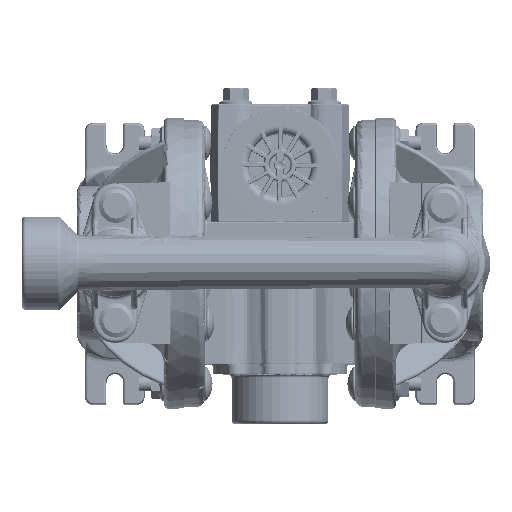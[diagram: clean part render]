
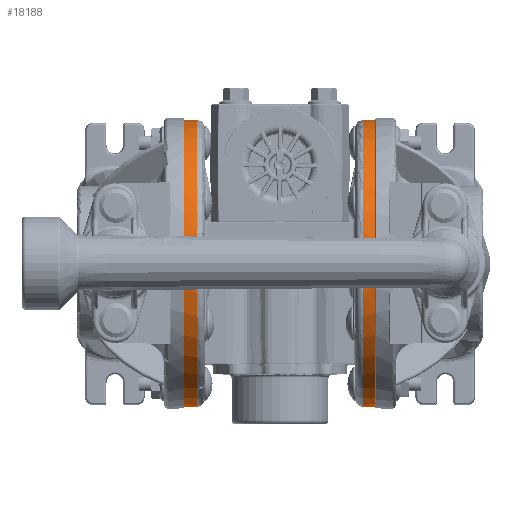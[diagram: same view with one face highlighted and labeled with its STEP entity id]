
A CAD part, top view. The second image highlights one B-rep face of the part: STEP entity #18188.
In plain terms, the highlighted cylindrical face has radius 61.913 mm (diameter 123.825 mm), a full revolution.
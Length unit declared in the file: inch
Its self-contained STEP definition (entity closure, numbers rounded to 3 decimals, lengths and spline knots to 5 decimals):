
#8941=B_SPLINE_CURVE_WITH_KNOTS('',3,(#281102,#281103,#281104,#281105),.UNSPECIFIED.,
.F.,.F.,(4,4),(0.,1.),.UNSPECIFIED.);
#8942=B_SPLINE_CURVE_WITH_KNOTS('',3,(#281126,#281127,#281128,#281129),.UNSPECIFIED.,
.F.,.F.,(4,4),(0.,1.),.UNSPECIFIED.);
#8943=B_SPLINE_CURVE_WITH_KNOTS('',3,(#281144,#281145,#281146,#281147),.UNSPECIFIED.,
.F.,.F.,(4,4),(0.,1.),.UNSPECIFIED.);
#8944=B_SPLINE_CURVE_WITH_KNOTS('',3,(#281166,#281167,#281168,#281169),.UNSPECIFIED.,
.F.,.F.,(4,4),(0.,1.),.UNSPECIFIED.);
#8946=B_SPLINE_CURVE_WITH_KNOTS('',3,(#281199,#281200,#281201,#281202),.UNSPECIFIED.,
.F.,.F.,(4,4),(0.,1.),.UNSPECIFIED.);
#8947=B_SPLINE_CURVE_WITH_KNOTS('',3,(#281222,#281223,#281224,#281225),.UNSPECIFIED.,
.F.,.F.,(4,4),(0.,1.),.UNSPECIFIED.);
#8950=B_SPLINE_CURVE_WITH_KNOTS('',3,(#281274,#281275,#281276,#281277),.UNSPECIFIED.,
.F.,.F.,(4,4),(0.,1.),.UNSPECIFIED.);
#8951=B_SPLINE_CURVE_WITH_KNOTS('',3,(#281292,#281293,#281294,#281295),.UNSPECIFIED.,
.F.,.F.,(4,4),(0.,1.),.UNSPECIFIED.);
#10473=CYLINDRICAL_SURFACE('',#139110,2.4375);
#18188=ADVANCED_FACE('',(#46049,#46050,#46051,#46052),#10473,.T.);
#37373=LINE('',#281118,#45289);
#37374=LINE('',#281120,#45290);
#37375=LINE('',#281122,#45291);
#37376=LINE('',#281162,#45292);
#37377=LINE('',#281217,#45293);
#37388=LINE('',#281479,#45304);
#45289=VECTOR('',#169526,1.);
#45290=VECTOR('',#169529,1.);
#45291=VECTOR('',#169532,1.);
#45292=VECTOR('',#169543,1.);
#45293=VECTOR('',#169554,1.);
#45304=VECTOR('',#169625,1.);
#46049=FACE_BOUND('',#54200,.T.);
#46050=FACE_BOUND('',#54201,.T.);
#46051=FACE_BOUND('',#54202,.T.);
#46052=FACE_BOUND('',#54203,.T.);
#54200=EDGE_LOOP('',(#91135,#91136,#91137,#91138,#91139,#91140,#91141,#91142));
#54201=EDGE_LOOP('',(#91143,#91144,#91145,#91146,#91147,#91148,#91149,#91150,
#91151,#91152));
#54202=EDGE_LOOP('',(#91153));
#54203=EDGE_LOOP('',(#91154));
#91135=ORIENTED_EDGE('',*,*,#122138,.T.);
#91136=ORIENTED_EDGE('',*,*,#121977,.T.);
#91137=ORIENTED_EDGE('',*,*,#122008,.T.);
#91138=ORIENTED_EDGE('',*,*,#121975,.T.);
#91139=ORIENTED_EDGE('',*,*,#121972,.T.);
#91140=ORIENTED_EDGE('',*,*,#121971,.T.);
#91141=ORIENTED_EDGE('',*,*,#121968,.T.);
#91142=ORIENTED_EDGE('',*,*,#121966,.T.);
#91143=ORIENTED_EDGE('',*,*,#121964,.T.);
#91144=ORIENTED_EDGE('',*,*,#121963,.T.);
#91145=ORIENTED_EDGE('',*,*,#121961,.T.);
#91146=ORIENTED_EDGE('',*,*,#121959,.T.);
#91147=ORIENTED_EDGE('',*,*,#121958,.T.);
#91148=ORIENTED_EDGE('',*,*,#121957,.T.);
#91149=ORIENTED_EDGE('',*,*,#121955,.T.);
#91150=ORIENTED_EDGE('',*,*,#121954,.T.);
#91151=ORIENTED_EDGE('',*,*,#121953,.T.);
#91152=ORIENTED_EDGE('',*,*,#121952,.T.);
#91153=ORIENTED_EDGE('',*,*,#121950,.F.);
#91154=ORIENTED_EDGE('',*,*,#121949,.T.);
#102951=VERTEX_POINT('',#278432);
#102955=VERTEX_POINT('',#278467);
#102960=VERTEX_POINT('',#278521);
#102961=VERTEX_POINT('',#278579);
#102964=VERTEX_POINT('',#278646);
#102965=VERTEX_POINT('',#278712);
#103124=VERTEX_POINT('',#280098);
#103349=VERTEX_POINT('',#281095);
#103350=VERTEX_POINT('',#281098);
#103351=VERTEX_POINT('',#281101);
#103352=VERTEX_POINT('',#281123);
#103353=VERTEX_POINT('',#281148);
#103354=VERTEX_POINT('',#281163);
#103355=VERTEX_POINT('',#281197);
#103357=VERTEX_POINT('',#281203);
#103358=VERTEX_POINT('',#281218);
#103359=VERTEX_POINT('',#281239);
#103361=VERTEX_POINT('',#281278);
#103362=VERTEX_POINT('',#281296);
#103363=VERTEX_POINT('',#281297);
#121949=EDGE_CURVE('',#103349,#103349,#127556,.T.);
#121950=EDGE_CURVE('',#103350,#103350,#127557,.T.);
#121952=EDGE_CURVE('',#103351,#102965,#8941,.T.);
#121953=EDGE_CURVE('',#102951,#103351,#37373,.T.);
#121954=EDGE_CURVE('',#102955,#102951,#37374,.T.);
#121955=EDGE_CURVE('',#103352,#102955,#37375,.T.);
#121957=EDGE_CURVE('',#102960,#103352,#8942,.T.);
#121958=EDGE_CURVE('',#102961,#102960,#127560,.T.);
#121959=EDGE_CURVE('',#103353,#102961,#8943,.T.);
#121961=EDGE_CURVE('',#103354,#103353,#37376,.T.);
#121963=EDGE_CURVE('',#102964,#103354,#8944,.T.);
#121964=EDGE_CURVE('',#102965,#102964,#127563,.T.);
#121966=EDGE_CURVE('',#103357,#103355,#8946,.T.);
#121968=EDGE_CURVE('',#103358,#103357,#37377,.T.);
#121971=EDGE_CURVE('',#103124,#103358,#8947,.T.);
#121972=EDGE_CURVE('',#103359,#103124,#127566,.T.);
#121975=EDGE_CURVE('',#103361,#103359,#8950,.T.);
#121977=EDGE_CURVE('',#103362,#103363,#8951,.T.);
#122008=EDGE_CURVE('',#103363,#103361,#37388,.T.);
#122138=EDGE_CURVE('',#103355,#103362,#127637,.T.);
#127556=CIRCLE('',#138945,2.4375);
#127557=CIRCLE('',#138947,2.4375);
#127560=CIRCLE('',#138954,2.4375);
#127563=CIRCLE('',#138959,2.4375);
#127566=CIRCLE('',#138964,2.4375);
#127637=CIRCLE('',#139109,2.4375);
#138945=AXIS2_PLACEMENT_3D('',#281094,#169516,#169517);
#138947=AXIS2_PLACEMENT_3D('',#281097,#169520,#169521);
#138954=AXIS2_PLACEMENT_3D('',#281142,#169537,#169538);
#138959=AXIS2_PLACEMENT_3D('',#281182,#169548,#169549);
#138964=AXIS2_PLACEMENT_3D('',#281238,#169560,#169561);
#139109=AXIS2_PLACEMENT_3D('',#282381,#169889,#169890);
#139110=AXIS2_PLACEMENT_3D('',#282382,#169891,#169892);
#169516=DIRECTION('',(1.,0.,0.));
#169517=DIRECTION('',(0.,-1.,0.));
#169520=DIRECTION('',(1.,0.,0.));
#169521=DIRECTION('',(0.,-1.,0.));
#169526=DIRECTION('',(-1.,0.,0.));
#169529=DIRECTION('',(-1.,0.,0.));
#169532=DIRECTION('',(-1.,0.,0.));
#169537=DIRECTION('',(1.,0.,0.));
#169538=DIRECTION('',(0.,0.,1.));
#169543=DIRECTION('',(1.,0.,0.));
#169548=DIRECTION('',(-1.,0.,0.));
#169549=DIRECTION('',(0.,-1.,0.));
#169554=DIRECTION('',(1.,0.,0.));
#169560=DIRECTION('',(-1.,0.,0.));
#169561=DIRECTION('',(0.,1.,0.));
#169625=DIRECTION('',(-1.,0.,0.));
#169889=DIRECTION('',(1.,0.,0.));
#169890=DIRECTION('',(0.,0.,-1.));
#169891=DIRECTION('',(1.,0.,0.));
#169892=DIRECTION('',(0.,0.,-1.));
#278432=CARTESIAN_POINT('',(-0.84211,0.04779,1.85712));
#278467=CARTESIAN_POINT('',(0.56489,0.04779,1.85712));
#278521=CARTESIAN_POINT('',(1.64339,0.10743,1.85522));
#278579=CARTESIAN_POINT('',(1.64339,0.10743,-3.01504));
#278646=CARTESIAN_POINT('',(-1.17061,0.10743,-3.01504));
#278712=CARTESIAN_POINT('',(-1.17061,0.10743,1.85522));
#280098=CARTESIAN_POINT('',(-1.17061,-0.10743,1.85522));
#281094=CARTESIAN_POINT('',(-1.38861,0.,-0.57991));
#281095=CARTESIAN_POINT('',(-1.38861,-2.4375,-0.57991));
#281097=CARTESIAN_POINT('',(1.86139,0.,-0.57991));
#281098=CARTESIAN_POINT('',(1.86139,-2.4375,-0.57991));
#281101=CARTESIAN_POINT('',(-1.04008,0.04779,1.85712));
#281102=CARTESIAN_POINT('',(-1.04008,0.04779,1.85712));
#281103=CARTESIAN_POINT('',(-1.08938,0.04779,1.85712));
#281104=CARTESIAN_POINT('',(-1.13168,0.07842,1.8565));
#281105=CARTESIAN_POINT('',(-1.17061,0.10743,1.85522));
#281118=CARTESIAN_POINT('',(-1.38861,0.04779,1.85712));
#281120=CARTESIAN_POINT('',(-1.38861,0.04779,1.85712));
#281122=CARTESIAN_POINT('',(-1.38861,0.04779,1.85712));
#281123=CARTESIAN_POINT('',(1.51286,0.04779,1.85712));
#281126=CARTESIAN_POINT('',(1.64339,0.10743,1.85522));
#281127=CARTESIAN_POINT('',(1.60446,0.07842,1.8565));
#281128=CARTESIAN_POINT('',(1.56215,0.04779,1.85712));
#281129=CARTESIAN_POINT('',(1.51286,0.04779,1.85712));
#281142=CARTESIAN_POINT('',(1.64339,0.,-0.57991));
#281144=CARTESIAN_POINT('',(1.51286,0.04779,-3.01694));
#281145=CARTESIAN_POINT('',(1.56215,0.04779,-3.01694));
#281146=CARTESIAN_POINT('',(1.60446,0.07842,-3.01632));
#281147=CARTESIAN_POINT('',(1.64339,0.10743,-3.01504));
#281148=CARTESIAN_POINT('',(1.51286,0.04779,-3.01694));
#281162=CARTESIAN_POINT('',(-1.38861,0.04779,-3.01694));
#281163=CARTESIAN_POINT('',(-1.04008,0.04779,-3.01694));
#281166=CARTESIAN_POINT('',(-1.17061,0.10743,-3.01504));
#281167=CARTESIAN_POINT('',(-1.13168,0.07842,-3.01632));
#281168=CARTESIAN_POINT('',(-1.08938,0.04779,-3.01694));
#281169=CARTESIAN_POINT('',(-1.04008,0.04779,-3.01694));
#281182=CARTESIAN_POINT('',(-1.17061,0.,-0.57991));
#281197=CARTESIAN_POINT('',(1.64339,-0.10743,1.85522));
#281199=CARTESIAN_POINT('',(1.51286,-0.04779,1.85712));
#281200=CARTESIAN_POINT('',(1.56215,-0.04779,1.85712));
#281201=CARTESIAN_POINT('',(1.60446,-0.07842,1.8565));
#281202=CARTESIAN_POINT('',(1.64339,-0.10743,1.85522));
#281203=CARTESIAN_POINT('',(1.51286,-0.04779,1.85712));
#281217=CARTESIAN_POINT('',(-1.38861,-0.04779,1.85712));
#281218=CARTESIAN_POINT('',(-1.04008,-0.04779,1.85712));
#281222=CARTESIAN_POINT('',(-1.17061,-0.10743,1.85522));
#281223=CARTESIAN_POINT('',(-1.13168,-0.07842,1.8565));
#281224=CARTESIAN_POINT('',(-1.08938,-0.04779,1.85712));
#281225=CARTESIAN_POINT('',(-1.04008,-0.04779,1.85712));
#281238=CARTESIAN_POINT('',(-1.17061,0.,-0.57991));
#281239=CARTESIAN_POINT('',(-1.17061,-0.10743,-3.01504));
#281274=CARTESIAN_POINT('',(-1.04008,-0.04779,-3.01694));
#281275=CARTESIAN_POINT('',(-1.08938,-0.04779,-3.01694));
#281276=CARTESIAN_POINT('',(-1.13168,-0.07842,-3.01632));
#281277=CARTESIAN_POINT('',(-1.17061,-0.10743,-3.01504));
#281278=CARTESIAN_POINT('',(-1.04008,-0.04779,-3.01694));
#281292=CARTESIAN_POINT('',(1.64339,-0.10743,-3.01504));
#281293=CARTESIAN_POINT('',(1.60446,-0.07842,-3.01632));
#281294=CARTESIAN_POINT('',(1.56215,-0.04779,-3.01694));
#281295=CARTESIAN_POINT('',(1.51286,-0.04779,-3.01694));
#281296=CARTESIAN_POINT('',(1.64339,-0.10743,-3.01504));
#281297=CARTESIAN_POINT('',(1.51286,-0.04779,-3.01694));
#281479=CARTESIAN_POINT('',(-1.38861,-0.04779,-3.01694));
#282381=CARTESIAN_POINT('',(1.64339,0.,-0.57991));
#282382=CARTESIAN_POINT('',(-1.38861,0.,-0.57991));
